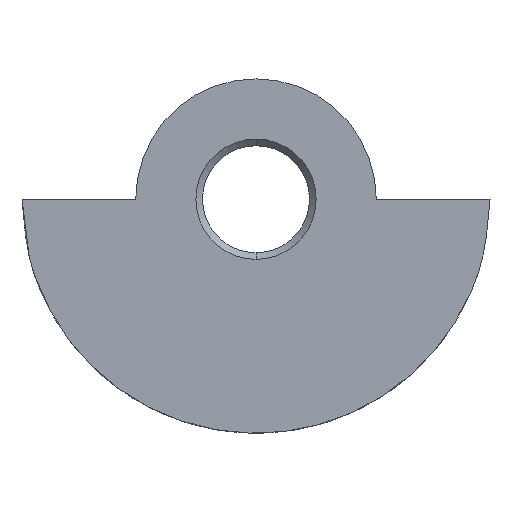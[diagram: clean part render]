
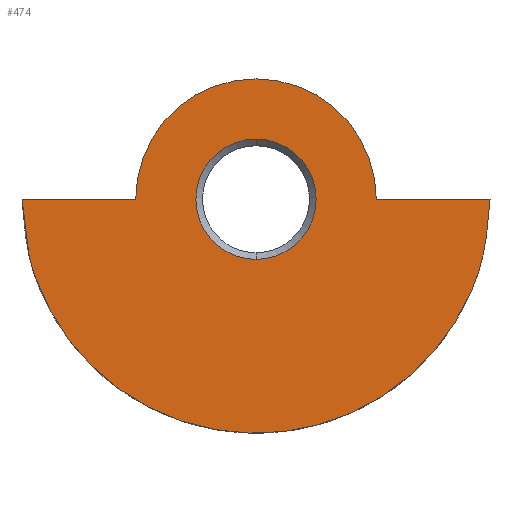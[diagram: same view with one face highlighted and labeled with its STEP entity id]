
A CAD part, front view. The second image highlights one B-rep face of the part: STEP entity #474.
In plain terms, the highlighted planar face has unit normal (0, -1, 0).
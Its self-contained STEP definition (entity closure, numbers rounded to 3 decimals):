
#5 = CARTESIAN_POINT ( 'NONE',  ( 0., 0., -17.615 ) ) ;
#7 = CARTESIAN_POINT ( 'NONE',  ( 0., 0., 0. ) ) ;
#8 = VECTOR ( 'NONE', #171, 1000. ) ;
#34 = VERTEX_POINT ( 'NONE', #149 ) ;
#40 = CARTESIAN_POINT ( 'NONE',  ( -17.385, 0., -1.522 ) ) ;
#45 = CARTESIAN_POINT ( 'NONE',  ( 6.76, 0., -16.266 ) ) ;
#48 = DIRECTION ( 'NONE',  ( 0., 0., 1. ) ) ;
#50 = FACE_OUTER_BOUND ( 'NONE', #72, .T. ) ;
#70 = CIRCLE ( 'NONE', #304, 9. ) ;
#71 = CIRCLE ( 'NONE', #143, 4.5 ) ;
#72 = EDGE_LOOP ( 'NONE', ( #526, #135, #556, #291, #201 ) ) ;
#73 = CARTESIAN_POINT ( 'NONE',  ( 0., 0., 0. ) ) ;
#77 = AXIS2_PLACEMENT_3D ( 'NONE', #501, #546, #253 ) ;
#79 = ORIENTED_EDGE ( 'NONE', *, *, #467, .T. ) ;
#89 = DIRECTION ( 'NONE',  ( 0., 1., 0. ) ) ;
#95 = CARTESIAN_POINT ( 'NONE',  ( 12.774, 0., -12.191 ) ) ;
#113 = DIRECTION ( 'NONE',  ( -1., 0., 0. ) ) ;
#121 = B_SPLINE_CURVE_WITH_KNOTS ( 'NONE', 3,
 ( #315, #40, #465, #186, #516, #224, #568, #269, #5, #318, #45, #371, #95, #419, #138, #469, #188 ),
 .UNSPECIFIED., .F., .F.,
 ( 4, 1, 1, 1, 1, 1, 1, 1, 1, 1, 1, 1, 1, 1, 4 ),
 ( 0., 0.083, 0.167, 0.25, 0.312, 0.375, 0.438, 0.5, 0.562, 0.625, 0.688, 0.75, 0.833, 0.917, 1. ),
 .UNSPECIFIED. ) ;
#122 = DIRECTION ( 'NONE',  ( 0., 0., -1. ) ) ;
#135 = ORIENTED_EDGE ( 'NONE', *, *, #473, .F. ) ;
#138 = CARTESIAN_POINT ( 'NONE',  ( 17.154, 0., -4.565 ) ) ;
#139 = EDGE_LOOP ( 'NONE', ( #79, #510 ) ) ;
#143 = AXIS2_PLACEMENT_3D ( 'NONE', #73, #398, #122 ) ;
#149 = CARTESIAN_POINT ( 'NONE',  ( 9., 0., 0. ) ) ;
#164 = VERTEX_POINT ( 'NONE', #529 ) ;
#171 = DIRECTION ( 'NONE',  ( 1., 0., 0. ) ) ;
#174 = VECTOR ( 'NONE', #113, 1000. ) ;
#183 = CIRCLE ( 'NONE', #451, 4.5 ) ;
#186 = CARTESIAN_POINT ( 'NONE',  ( -15.326, 0., -8.828 ) ) ;
#188 = CARTESIAN_POINT ( 'NONE',  ( 17.5, 0., 0. ) ) ;
#197 = DIRECTION ( 'NONE',  ( 0., 1., 0. ) ) ;
#201 = ORIENTED_EDGE ( 'NONE', *, *, #524, .F. ) ;
#209 = FACE_BOUND ( 'NONE', #139, .T. ) ;
#224 = CARTESIAN_POINT ( 'NONE',  ( -9.807, 0., -14.627 ) ) ;
#231 = CIRCLE ( 'NONE', #289, 9. ) ;
#240 = CARTESIAN_POINT ( 'NONE',  ( 0., 0., 9. ) ) ;
#252 = VERTEX_POINT ( 'NONE', #240 ) ;
#253 = DIRECTION ( 'NONE',  ( 0., 0., -1. ) ) ;
#269 = CARTESIAN_POINT ( 'NONE',  ( -3.447, 0., -17.271 ) ) ;
#280 = VERTEX_POINT ( 'NONE', #347 ) ;
#288 = CARTESIAN_POINT ( 'NONE',  ( 12.75, 0., 0. ) ) ;
#289 = AXIS2_PLACEMENT_3D ( 'NONE', #7, #321, #48 ) ;
#291 = ORIENTED_EDGE ( 'NONE', *, *, #541, .T. ) ;
#304 = AXIS2_PLACEMENT_3D ( 'NONE', #367, #89, #415 ) ;
#315 = CARTESIAN_POINT ( 'NONE',  ( -17.5, 0., 0. ) ) ;
#318 = CARTESIAN_POINT ( 'NONE',  ( 3.447, 0., -17.271 ) ) ;
#319 = VERTEX_POINT ( 'NONE', #393 ) ;
#321 = DIRECTION ( 'NONE',  ( 0., 1., 0. ) ) ;
#333 = CARTESIAN_POINT ( 'NONE',  ( 0., 0., -4.5 ) ) ;
#347 = CARTESIAN_POINT ( 'NONE',  ( -17.5, 0., 0. ) ) ;
#353 = CARTESIAN_POINT ( 'NONE',  ( -12.75, 0., 0. ) ) ;
#367 = CARTESIAN_POINT ( 'NONE',  ( 0., 0., 0. ) ) ;
#371 = CARTESIAN_POINT ( 'NONE',  ( 9.807, 0., -14.627 ) ) ;
#390 = VERTEX_POINT ( 'NONE', #444 ) ;
#393 = CARTESIAN_POINT ( 'NONE',  ( 17.5, 0., 0. ) ) ;
#398 = DIRECTION ( 'NONE',  ( 0., 1., 0. ) ) ;
#415 = DIRECTION ( 'NONE',  ( 0., 0., 1. ) ) ;
#419 = CARTESIAN_POINT ( 'NONE',  ( 15.326, 0., -8.828 ) ) ;
#444 = CARTESIAN_POINT ( 'NONE',  ( 0., 0., 4.5 ) ) ;
#448 = PLANE ( 'NONE',  #77 ) ;
#451 = AXIS2_PLACEMENT_3D ( 'NONE', #482, #197, #530 ) ;
#465 = CARTESIAN_POINT ( 'NONE',  ( -17.154, 0., -4.565 ) ) ;
#467 = EDGE_CURVE ( 'NONE', #582, #390, #71, .T. ) ;
#469 = CARTESIAN_POINT ( 'NONE',  ( 17.385, 0., -1.522 ) ) ;
#473 = EDGE_CURVE ( 'NONE', #280, #164, #527, .T. ) ;
#474 = ADVANCED_FACE ( 'NONE', ( #209, #50 ), #448, .T. ) ;
#482 = CARTESIAN_POINT ( 'NONE',  ( 0., 0., 0. ) ) ;
#501 = CARTESIAN_POINT ( 'NONE',  ( 0., 0., -17.5 ) ) ;
#510 = ORIENTED_EDGE ( 'NONE', *, *, #591, .T. ) ;
#516 = CARTESIAN_POINT ( 'NONE',  ( -12.774, 0., -12.191 ) ) ;
#522 = EDGE_CURVE ( 'NONE', #164, #252, #70, .T. ) ;
#523 = EDGE_CURVE ( 'NONE', #280, #319, #121, .T. ) ;
#524 = EDGE_CURVE ( 'NONE', #252, #34, #231, .T. ) ;
#526 = ORIENTED_EDGE ( 'NONE', *, *, #522, .F. ) ;
#527 = LINE ( 'NONE', #353, #8 ) ;
#529 = CARTESIAN_POINT ( 'NONE',  ( -9., 0., 0. ) ) ;
#530 = DIRECTION ( 'NONE',  ( 0., 0., -1. ) ) ;
#541 = EDGE_CURVE ( 'NONE', #319, #34, #548, .T. ) ;
#546 = DIRECTION ( 'NONE',  ( 0., -1., 0. ) ) ;
#548 = LINE ( 'NONE', #288, #174 ) ;
#556 = ORIENTED_EDGE ( 'NONE', *, *, #523, .T. ) ;
#568 = CARTESIAN_POINT ( 'NONE',  ( -6.76, 0., -16.266 ) ) ;
#582 = VERTEX_POINT ( 'NONE', #333 ) ;
#591 = EDGE_CURVE ( 'NONE', #390, #582, #183, .T. ) ;
